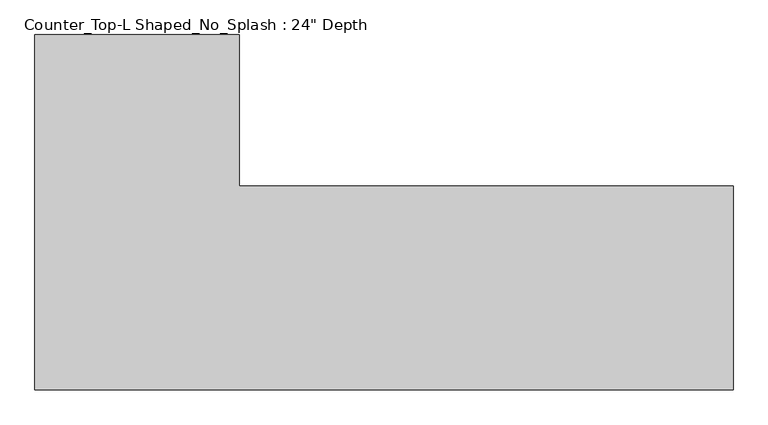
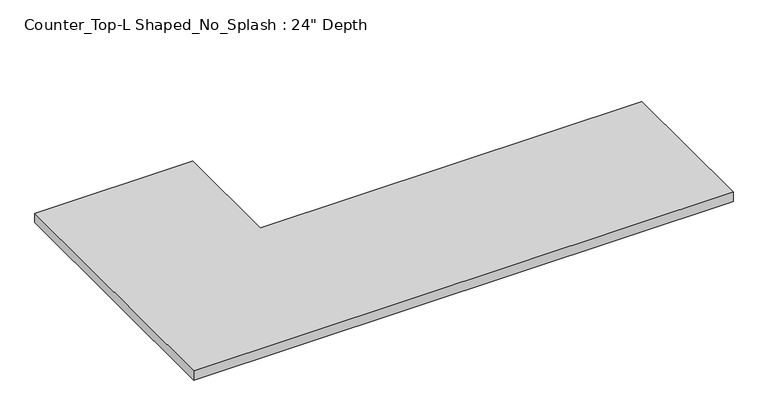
"""IFC4 building model written with IfcOpenShell, lengths in millimetres: furniture geometry."""

from ifc_helpers import new_model, si_unit, frame, origin, place, context, project, spatial, polyline, outline, extrude, source, transform, mapped, element, save


def furniture_905b49e9(model_context):
    return source(origin(), model_context, "Body", "SweptSolid", [
        extrude(outline(polyline([(882.3377049, 0.0), (-1200.4622951, 0.0), (-1200.4622951, 1060.45), (-590.8622951, 1060.45), (-590.8622951, 609.6), (882.3377049, 609.6), (882.3377049, 0.0)])), frame((0.0, 0.0, 876.3), z_axis=(0.0, 0.0, 1.0), x_axis=(1.0, 0.0, 0.0)), (0.0, 0.0, 1.0), 38.1),
    ])


if __name__ == "__main__":
    model = new_model("IFC4")
    model_context = context("Model", 3, world=origin())
    ifc_project = project(units=[si_unit("LENGTHUNIT", "METRE", prefix="MILLI")], contexts=[model_context])
    site = spatial("IfcSite", under=ifc_project)
    building = spatial("IfcBuilding", under=site)
    placement = place(None, origin())
    furniture_shape = furniture_905b49e9(model_context)
    element("IfcFurniture", 1, ObjectType="Counter_Top-L Shaped_No_Splash : 24\" Depth", at=placement, inside=building, context=model_context, shape_type="MappedRepresentation", body=[
        mapped(furniture_shape, transform((0.0, 0.0, 0.0), x_axis=(1.0, 0.0, 0.0), y_axis=(0.0, 1.0, 0.0), z_axis=(0.0, 0.0, 1.0))),
    ])
    save(model, "model.ifc")
